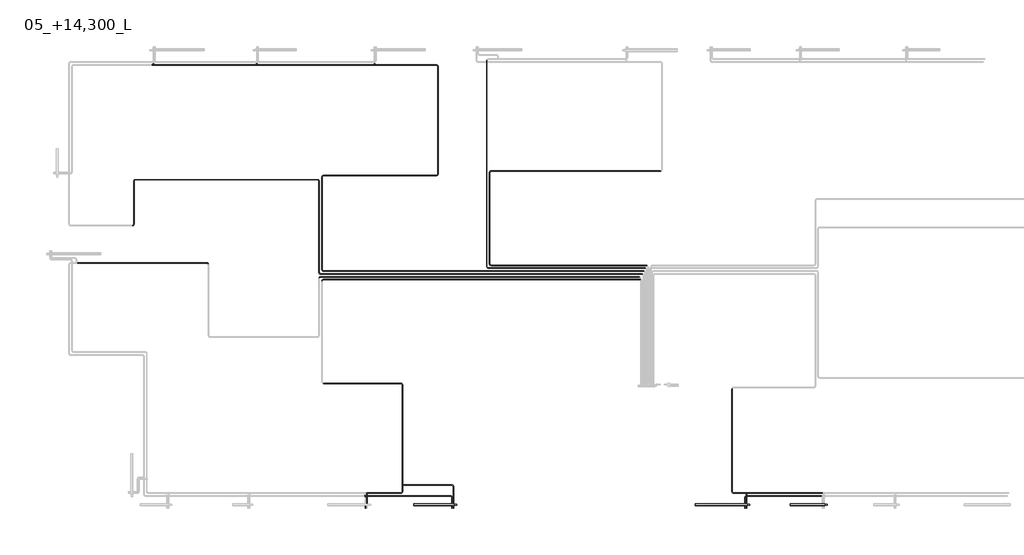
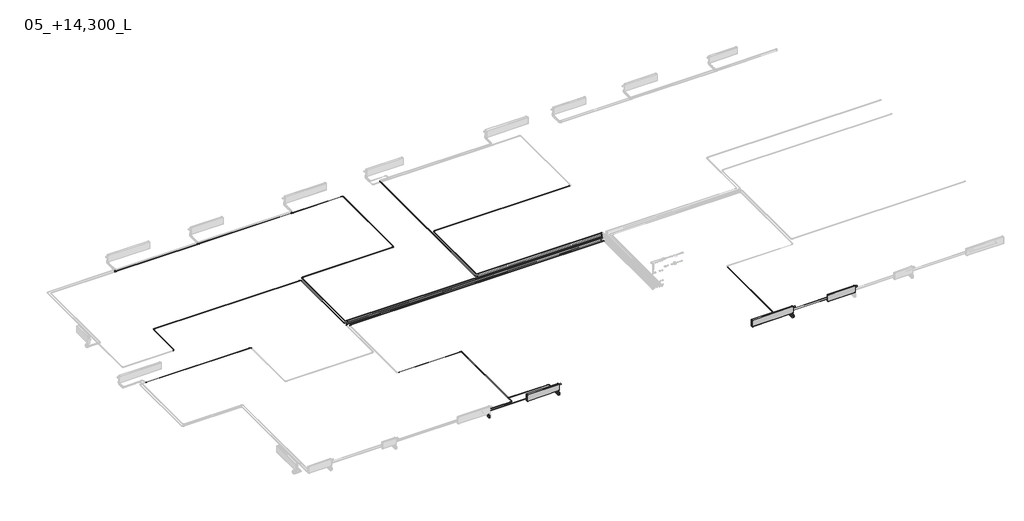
# One storey, part 3 of 15: 34 pipe segments, 32 pipe fittings, 3 proxies, 3 valves.
"""IFC4 building model written with IfcOpenShell, lengths in millimetres."""

from ifc_helpers import new_model, si_unit, point, frame, frame_2d, origin, place, context, project, spatial, circle_curve, trimmed, segment, composite_curve, outline, extrude, transform, mapped, element, save
from components import mechanical_equipment_c68842d5, mechanical_equipment_da64a6a1, mechanical_equipment_6df30eec, pipe_fitting_44bd76dc, pipe_fitting_8f811e63, pipe_fitting_d927fdfb, valve_f5090433, valve_5b696a81, valve_d3faaedd

model = new_model("IFC4")

# Units and contexts
model_context = context("Model", 3, world=origin())
ifc_project = project(units=[si_unit("LENGTHUNIT", "METRE", prefix="MILLI")], contexts=[model_context])

# Site, building, storey
site = spatial("IfcSite", under=ifc_project)
building = spatial("IfcBuilding", under=site)
storey = spatial("IfcBuildingStorey", under=building, Name="05_+14,300_L", Elevation=14300.0)

# Proxies
placement = place(None, origin())
mechanical_equipment_shape = mechanical_equipment_c68842d5(model_context)
element("IfcBuildingElementProxy", 1, Name="EVRA CV Д : 21-300-1400", ObjectType="EVRA CV Д : 21-300-1400", at=placement, inside=storey, context=model_context, shape_type="MappedRepresentation", body=[
    mapped(mechanical_equipment_shape, transform((10800.0, 112561.4631102, 14300.0), x_axis=(-1.0, 0.0, 0.0), y_axis=(0.0, -1.0, 0.0), z_axis=(0.0, 0.0, 1.0))),
])
mechanical_equipment_2_shape = mechanical_equipment_da64a6a1(model_context)
element("IfcBuildingElementProxy", 2, Name="EVRA CV Д : 21-300-1200", ObjectType="EVRA CV Д : 21-300-1200", at=placement, inside=storey, context=model_context, shape_type="MappedRepresentation", body=[
    mapped(mechanical_equipment_2_shape, transform((23800.0, 112561.4631102, 14300.0), x_axis=(-1.0, 0.0, 0.0), y_axis=(0.0, -1.0, 0.0), z_axis=(0.0, 0.0, 1.0))),
])
mechanical_equipment_3_shape = mechanical_equipment_6df30eec(model_context)
element("IfcBuildingElementProxy", 3, Name="EVRA CV Д : 21-300-1800", ObjectType="EVRA CV Д : 21-300-1800", at=placement, inside=storey, context=model_context, shape_type="MappedRepresentation", body=[
    mapped(mechanical_equipment_3_shape, transform((20800.0, 112561.4631102, 14300.0), x_axis=(-1.0, 0.0, 0.0), y_axis=(0.0, -1.0, 0.0), z_axis=(0.0, 0.0, 1.0))),
])

# Pipe fittings
pipe_fitting_shape = pipe_fitting_44bd76dc(model_context)
element("IfcPipeFitting", 4, ObjectType="ADSK_Пресс-фитинг ПЭ_Тройник : Пластик черный", at=placement, inside=storey, context=model_context, shape_type="MappedRepresentation", body=[
    mapped(pipe_fitting_shape, transform((9500.0, 113273.0, 14250.0), x_axis=(0.0, 1.0, 0.0), y_axis=(-1.0, 0.0, 0.0), z_axis=(0.0, 0.0, 1.0))),
])
element("IfcPipeFitting", 5, ObjectType="ADSK_Пресс-фитинг ПЭ_Тройник : Пластик черный", at=placement, inside=storey, context=model_context, shape_type="MappedRepresentation", body=[
    mapped(pipe_fitting_shape, transform((8270.0, 113000.0, 14250.0), x_axis=(1.0, 0.0, 0.0), y_axis=(0.0, 1.0, 0.0), z_axis=(0.0, 0.0, 1.0))),
])
element("IfcPipeFitting", 6, ObjectType="ADSK_Пресс-фитинг ПЭ_Тройник : Пластик черный", at=placement, inside=storey, context=model_context, shape_type="MappedRepresentation", body=[
    mapped(pipe_fitting_shape, transform((8530.0, 127900.0, 14250.0), x_axis=(1.0, 0.0, 0.0), y_axis=(0.0, -1.0, 0.0), z_axis=(0.0, 0.0, -1.0))),
])
element("IfcPipeFitting", 7, ObjectType="ADSK_Пресс-фитинг ПЭ_Тройник : Пластик черный", at=placement, inside=storey, context=model_context, shape_type="MappedRepresentation", body=[
    mapped(pipe_fitting_shape, transform((21470.0, 113000.0, 14250.0), x_axis=(1.0, 0.0, 0.0), y_axis=(0.0, 1.0, 0.0), z_axis=(0.0, 0.0, 1.0))),
])
element("IfcPipeFitting", 8, ObjectType="ADSK_Пресс-фитинг ПЭ_Тройник : Пластик черный", at=placement, inside=storey, context=model_context, shape_type="MappedRepresentation", body=[
    mapped(pipe_fitting_shape, transform((830.0, 127900.0, 14250.0), x_axis=(1.0, 0.0, 0.0), y_axis=(0.0, -1.0, 0.0), z_axis=(0.0, 0.0, -1.0))),
])
element("IfcPipeFitting", 9, ObjectType="ADSK_Пресс-фитинг ПЭ_Тройник : Пластик черный", at=placement, inside=storey, context=model_context, shape_type="MappedRepresentation", body=[
    mapped(pipe_fitting_shape, transform((4430.0, 127900.0, 14250.0), x_axis=(1.0, 0.0, 0.0), y_axis=(0.0, -1.0, 0.0), z_axis=(0.0, 0.0, -1.0))),
])
element("IfcPipeFitting", 10, ObjectType="ADSK_Пресс-фитинг ПЭ_Тройник : Пластик черный", at=placement, inside=storey, context=model_context, shape_type="MappedRepresentation", body=[
    mapped(pipe_fitting_shape, transform((8220.0, 112900.0, 14250.0), x_axis=(1.0, 0.0, 0.0), y_axis=(0.0, 1.0, 0.0), z_axis=(0.0, 0.0, 1.0))),
])
pipe_fitting_2_shape = pipe_fitting_8f811e63(model_context)
element("IfcPipeFitting", 11, ObjectType="ADSK_Пресс-фитинг ПЭ_Поворот с фиксатором : Поворот трубы", at=placement, inside=storey, context=model_context, shape_type="MappedRepresentation", body=[
    mapped(pipe_fitting_2_shape, transform((9500.0, 116805.0000002, 14250.0), x_axis=(0.0, 1.0, 0.0), y_axis=(-1.0, 0.0, 0.0), z_axis=(0.0, 0.0, 1.0))),
])
element("IfcPipeFitting", 12, ObjectType="ADSK_Пресс-фитинг ПЭ_Поворот с фиксатором : Поворот трубы", at=placement, inside=storey, context=model_context, shape_type="MappedRepresentation", body=[
    mapped(pipe_fitting_2_shape, transform((9500.0, 113000.0, 14250.0), x_axis=(1.0, 0.0, 0.0), y_axis=(0.0, 1.0, 0.0), z_axis=(0.0, 0.0, 1.0))),
])
element("IfcPipeFitting", 13, ObjectType="ADSK_Пресс-фитинг ПЭ_Поворот с фиксатором : Поворот трубы", at=placement, inside=storey, context=model_context, shape_type="MappedRepresentation", body=[
    mapped(pipe_fitting_2_shape, transform((10730.0, 127900.0, 14250.0), x_axis=(0.0, 1.0, 0.0), y_axis=(-1.0, 0.0, 0.0), z_axis=(0.0, 0.0, 1.0))),
])
element("IfcPipeFitting", 14, ObjectType="ADSK_Пресс-фитинг ПЭ_Поворот с фиксатором : Поворот трубы", at=placement, inside=storey, context=model_context, shape_type="MappedRepresentation", body=[
    mapped(pipe_fitting_2_shape, transform((20970.0, 113000.0, 14250.0), x_axis=(0.0, -1.0, 0.0), y_axis=(1.0, 0.0, 0.0), z_axis=(0.0, 0.0, 1.0))),
])
element("IfcPipeFitting", 15, ObjectType="ADSK_Пресс-фитинг ПЭ_Поворот с фиксатором : Поворот трубы", at=placement, inside=storey, context=model_context, shape_type="MappedRepresentation", body=[
    mapped(pipe_fitting_2_shape, transform((6600.0, 123900.0, 14250.0), x_axis=(0.0, 1.0, 0.0), y_axis=(-1.0, 0.0, 0.0), z_axis=(0.0, 0.0, 1.0))),
])
element("IfcPipeFitting", 16, ObjectType="ADSK_Пресс-фитинг ПЭ_Поворот с фиксатором : Поворот трубы", at=placement, inside=storey, context=model_context, shape_type="MappedRepresentation", body=[
    mapped(pipe_fitting_2_shape, transform((12535.0, 124200.0, 14250.0), x_axis=(-1.0, 0.0, 0.0), y_axis=(0.0, -1.0, 0.0), z_axis=(0.0, 0.0, 1.0))),
])
element("IfcPipeFitting", 17, ObjectType="ADSK_Пресс-фитинг ПЭ_Поворот с фиксатором : Поворот трубы", at=placement, inside=storey, context=model_context, shape_type="MappedRepresentation", body=[
    mapped(pipe_fitting_2_shape, transform((6700.0, 120421.8369308, 14250.0), x_axis=(-1.0, 0.0, 0.0), y_axis=(0.0, -1.0, 0.0), z_axis=(0.0, 0.0, 1.0))),
])
element("IfcPipeFitting", 18, ObjectType="ADSK_Пресс-фитинг ПЭ_Поворот с фиксатором : Поворот трубы", at=placement, inside=storey, context=model_context, shape_type="MappedRepresentation", body=[
    mapped(pipe_fitting_2_shape, transform((6600.0, 120521.8369308, 14250.0), x_axis=(-1.0, 0.0, 0.0), y_axis=(0.0, -1.0, 0.0), z_axis=(0.0, 0.0, 1.0))),
])
element("IfcPipeFitting", 19, ObjectType="ADSK_Пресс-фитинг ПЭ_Поворот с фиксатором : Поворот трубы", at=placement, inside=storey, context=model_context, shape_type="MappedRepresentation", body=[
    mapped(pipe_fitting_2_shape, transform((6600.0, 120621.8369308, 14250.0), x_axis=(0.0, -1.0, 0.0), y_axis=(1.0, 0.0, 0.0), z_axis=(0.0, 0.0, 1.0))),
])
element("IfcPipeFitting", 20, ObjectType="ADSK_Пресс-фитинг ПЭ_Поворот с фиксатором : Поворот трубы", at=placement, inside=storey, context=model_context, shape_type="MappedRepresentation", body=[
    mapped(pipe_fitting_2_shape, transform((6700.0, 120721.8369308, 14250.0), x_axis=(0.0, -1.0, 0.0), y_axis=(1.0, 0.0, 0.0), z_axis=(0.0, 0.0, 1.0))),
])
element("IfcPipeFitting", 21, ObjectType="ADSK_Пресс-фитинг ПЭ_Поворот с фиксатором : Поворот трубы", at=placement, inside=storey, context=model_context, shape_type="MappedRepresentation", body=[
    mapped(pipe_fitting_2_shape, transform((12435.0, 120821.8369308, 14250.0), x_axis=(0.0, -1.0, 0.0), y_axis=(1.0, 0.0, 0.0), z_axis=(0.0, 0.0, 1.0))),
])
element("IfcPipeFitting", 22, ObjectType="ADSK_Пресс-фитинг ПЭ_Поворот с фиксатором : Поворот трубы", at=placement, inside=storey, context=model_context, shape_type="MappedRepresentation", body=[
    mapped(pipe_fitting_2_shape, transform((12535.0, 120921.8369308, 14250.0), x_axis=(0.0, -1.0, 0.0), y_axis=(1.0, 0.0, 0.0), z_axis=(0.0, 0.0, 1.0))),
])
element("IfcPipeFitting", 23, ObjectType="ADSK_Пресс-фитинг ПЭ_Поворот с фиксатором : Поворот трубы", at=placement, inside=storey, context=model_context, shape_type="MappedRepresentation", body=[
    mapped(pipe_fitting_2_shape, transform((10730.0, 124040.0, 14250.0), x_axis=(1.0, 0.0, 0.0), y_axis=(0.0, 1.0, 0.0), z_axis=(0.0, 0.0, 1.0))),
])
element("IfcPipeFitting", 24, ObjectType="ADSK_Пресс-фитинг ПЭ_Поворот с фиксатором : Поворот трубы", at=placement, inside=storey, context=model_context, shape_type="MappedRepresentation", body=[
    mapped(pipe_fitting_2_shape, transform((6700.0, 124040.0, 14250.0), x_axis=(-1.0, 0.0, 0.0), y_axis=(0.0, -1.0, 0.0), z_axis=(0.0, 0.0, 1.0))),
])
element("IfcPipeFitting", 25, ObjectType="ADSK_Пресс-фитинг ПЭ_Поворот с фиксатором : Поворот трубы", at=placement, inside=storey, context=model_context, shape_type="MappedRepresentation", body=[
    mapped(pipe_fitting_2_shape, transform((159.9999998, 123900.0, 14250.0), x_axis=(-1.0, 0.0, 0.0), y_axis=(0.0, -1.0, 0.0), z_axis=(0.0, 0.0, 1.0))),
])
element("IfcPipeFitting", 26, ObjectType="ADSK_Пресс-фитинг ПЭ_Поворот с фиксатором : Поворот трубы", at=placement, inside=storey, context=model_context, shape_type="MappedRepresentation", body=[
    mapped(pipe_fitting_2_shape, transform((159.9999998, 122300.0, 14250.0), x_axis=(1.0, 0.0, 0.0), y_axis=(0.0, 1.0, 0.0), z_axis=(0.0, 0.0, 1.0))),
])
element("IfcPipeFitting", 27, ObjectType="ADSK_Пресс-фитинг ПЭ_Поворот с фиксатором : Поворот трубы", at=placement, inside=storey, context=model_context, shape_type="MappedRepresentation", body=[
    mapped(pipe_fitting_2_shape, transform((2749.0000003, 121000.0000002, 14250.0), x_axis=(0.0, 1.0, 0.0), y_axis=(-1.0, 0.0, 0.0), z_axis=(0.0, 0.0, 1.0))),
])
element("IfcPipeFitting", 28, ObjectType="ADSK_Пресс-фитинг ПЭ_Поворот с фиксатором : Поворот трубы", at=placement, inside=storey, context=model_context, shape_type="MappedRepresentation", body=[
    mapped(pipe_fitting_2_shape, transform((21420.0, 112900.0, 14250.0), x_axis=(-1.0, 0.0, 0.0), y_axis=(0.0, -1.0, 0.0), z_axis=(0.0, 0.0, 1.0))),
])
element("IfcPipeFitting", 29, ObjectType="ADSK_Пресс-фитинг ПЭ_Поворот с фиксатором : Поворот трубы", at=placement, inside=storey, context=model_context, shape_type="MappedRepresentation", body=[
    mapped(pipe_fitting_2_shape, transform((11270.0, 113273.0, 14250.0), x_axis=(0.0, 1.0, 0.0), y_axis=(-1.0, 0.0, 0.0), z_axis=(0.0, 0.0, 1.0))),
])
element("IfcPipeFitting", 30, ObjectType="ADSK_Пресс-фитинг ПЭ_Поворот с фиксатором : Поворот трубы", at=placement, inside=storey, context=model_context, shape_type="MappedRepresentation", body=[
    mapped(pipe_fitting_2_shape, transform((11220.0, 112900.0, 14250.0), x_axis=(0.0, 1.0, 0.0), y_axis=(-1.0, 0.0, 0.0), z_axis=(0.0, 0.0, 1.0))),
])
pipe_fitting_3_shape = pipe_fitting_d927fdfb(model_context)
element("IfcPipeFitting", 31, ObjectType="Трубка Г-образная VTm.481.PC из стены : VTm.481.PC", at=placement, inside=storey, context=model_context, shape_type="MappedRepresentation", body=[
    mapped(pipe_fitting_3_shape, transform((21470.0, 112512.0, 14250.0), x_axis=(-1.0, 0.0, 0.0), y_axis=(0.0, -1.0, 0.0), z_axis=(0.0, 0.0, 1.0))),
])
element("IfcPipeFitting", 32, ObjectType="Трубка Г-образная VTm.481.PC из стены : VTm.481.PC", at=placement, inside=storey, context=model_context, shape_type="MappedRepresentation", body=[
    mapped(pipe_fitting_3_shape, transform((11270.0, 112512.0, 14250.0), x_axis=(-1.0, 0.0, 0.0), y_axis=(0.0, -1.0, 0.0), z_axis=(0.0, 0.0, 1.0))),
])
element("IfcPipeFitting", 33, ObjectType="Трубка Г-образная VTm.481.PC из стены : VTm.481.PC", at=placement, inside=storey, context=model_context, shape_type="MappedRepresentation", body=[
    mapped(pipe_fitting_3_shape, transform((21420.0, 112512.0, 14250.0), x_axis=(-1.0, 0.0, 0.0), y_axis=(0.0, -1.0, 0.0), z_axis=(0.0, 0.0, 1.0))),
])
element("IfcPipeFitting", 34, ObjectType="Трубка Г-образная VTm.481.PC из стены : VTm.481.PC", at=placement, inside=storey, context=model_context, shape_type="MappedRepresentation", body=[
    mapped(pipe_fitting_3_shape, transform((11220.0, 112512.0, 14250.0), x_axis=(-1.0, 0.0, 0.0), y_axis=(0.0, -1.0, 0.0), z_axis=(0.0, 0.0, 1.0))),
])
element("IfcPipeFitting", 35, ObjectType="Трубка Г-образная VTm.481.PC из стены : VTm.481.PC", at=placement, inside=storey, context=model_context, shape_type="MappedRepresentation", body=[
    mapped(pipe_fitting_3_shape, transform((8220.0, 112512.0, 14250.0), x_axis=(-1.0, 0.0, 0.0), y_axis=(0.0, -1.0, 0.0), z_axis=(0.0, 0.0, 1.0))),
])

# Pipe segments
element("IfcPipeSegment", 36, ObjectType="ADSK_Полиэтилен сшитый", at=placement, inside=storey, context=model_context, shape_type="SweptSolid", body=[
    extrude(outline(composite_curve([segment(trimmed(circle_curve(frame_2d((113000.0, 14250.0)), 8.0), [point((113008.0, 14250.0))], [point((113000.0, 14242.0))], False, "CARTESIAN"), True, "CONTINUOUS"), segment(trimmed(circle_curve(frame_2d((113000.0, 14250.0)), 8.0), [point((113000.0, 14242.0))], [point((112992.0, 14250.0))], False, "CARTESIAN"), True, "CONTINUOUS"), segment(trimmed(circle_curve(frame_2d((113000.0, 14250.0)), 8.0), [point((112992.0, 14250.0))], [point((113000.0, 14258.0))], False, "CARTESIAN"), True, "CONTINUOUS"), segment(trimmed(circle_curve(frame_2d((113000.0, 14250.0)), 8.0), [point((113000.0, 14258.0))], [point((113008.0, 14250.0))], False, "CARTESIAN"), True, "CONTINUOUS")], self_intersect=False)), frame((21018.0, 0.0, 0.0), z_axis=(1.0, 0.0, 0.0), x_axis=(0.0, 1.0, 0.0)), (0.0, 0.0, 1.0), 432.0),
])
element("IfcPipeSegment", 37, ObjectType="ADSK_Полиэтилен сшитый", at=placement, inside=storey, context=model_context, shape_type="SweptSolid", body=[
    extrude(outline(composite_curve([segment(trimmed(circle_curve(frame_2d((116805.0000002, 14250.0)), 8.0), [point((116797.0000002, 14250.0))], [point((116805.0000002, 14258.0))], False, "CARTESIAN"), True, "CONTINUOUS"), segment(trimmed(circle_curve(frame_2d((116805.0000002, 14250.0)), 8.0), [point((116805.0000002, 14258.0))], [point((116813.0000002, 14250.0))], False, "CARTESIAN"), True, "CONTINUOUS"), segment(trimmed(circle_curve(frame_2d((116805.0000002, 14250.0)), 8.0), [point((116813.0000002, 14250.0))], [point((116805.0000002, 14242.0))], False, "CARTESIAN"), True, "CONTINUOUS"), segment(trimmed(circle_curve(frame_2d((116805.0000002, 14250.0)), 8.0), [point((116805.0000002, 14242.0))], [point((116797.0000002, 14250.0))], False, "CARTESIAN"), True, "CONTINUOUS")], self_intersect=False)), frame((6748.0, 0.0, 0.0), z_axis=(1.0, 0.0, 0.0), x_axis=(0.0, 1.0, 0.0)), (0.0, 0.0, 1.0), 2704.0),
])
element("IfcPipeSegment", 38, ObjectType="ADSK_Полиэтилен сшитый", at=placement, inside=storey, context=model_context, shape_type="SweptSolid", body=[
    extrude(outline(composite_curve([segment(trimmed(circle_curve(frame_2d((14250.0, 9500.0)), 8.0), [point((14250.0, 9492.0))], [point((14242.0, 9500.0))], False, "CARTESIAN"), True, "CONTINUOUS"), segment(trimmed(circle_curve(frame_2d((14250.0, 9500.0)), 8.0), [point((14242.0, 9500.0))], [point((14250.0, 9508.0))], False, "CARTESIAN"), True, "CONTINUOUS"), segment(trimmed(circle_curve(frame_2d((14250.0, 9500.0)), 8.0), [point((14250.0, 9508.0))], [point((14258.0, 9500.0))], False, "CARTESIAN"), True, "CONTINUOUS"), segment(trimmed(circle_curve(frame_2d((14250.0, 9500.0)), 8.0), [point((14258.0, 9500.0))], [point((14250.0, 9492.0))], False, "CARTESIAN"), True, "CONTINUOUS")], self_intersect=False)), frame((0.0, 113048.0, 0.0), z_axis=(0.0, 1.0, 0.0), x_axis=(0.0, 0.0, 1.0)), (0.0, 0.0, 1.0), 205.0),
])
element("IfcPipeSegment", 39, ObjectType="ADSK_Полиэтилен сшитый", at=placement, inside=storey, context=model_context, shape_type="SweptSolid", body=[
    extrude(outline(composite_curve([segment(trimmed(circle_curve(frame_2d((14250.0, 11220.0)), 8.0), [point((14250.0, 11212.0))], [point((14242.0, 11220.0))], False, "CARTESIAN"), True, "CONTINUOUS"), segment(trimmed(circle_curve(frame_2d((14250.0, 11220.0)), 8.0), [point((14242.0, 11220.0))], [point((14250.0, 11228.0))], False, "CARTESIAN"), True, "CONTINUOUS"), segment(trimmed(circle_curve(frame_2d((14250.0, 11220.0)), 8.0), [point((14250.0, 11228.0))], [point((14258.0, 11220.0))], False, "CARTESIAN"), True, "CONTINUOUS"), segment(trimmed(circle_curve(frame_2d((14250.0, 11220.0)), 8.0), [point((14258.0, 11220.0))], [point((14250.0, 11212.0))], False, "CARTESIAN"), True, "CONTINUOUS")], self_intersect=False)), frame((0.0, 112627.0, 0.0), z_axis=(0.0, 1.0, 0.0), x_axis=(0.0, 0.0, 1.0)), (0.0, 0.0, 1.0), 225.0),
])
element("IfcPipeSegment", 40, ObjectType="ADSK_Полиэтилен сшитый", at=placement, inside=storey, context=model_context, shape_type="SweptSolid", body=[
    extrude(outline(composite_curve([segment(trimmed(circle_curve(frame_2d((112900.0, 14250.0)), 8.0), [point((112892.0, 14250.0))], [point((112900.0, 14258.0))], False, "CARTESIAN"), True, "CONTINUOUS"), segment(trimmed(circle_curve(frame_2d((112900.0, 14250.0)), 8.0), [point((112900.0, 14258.0))], [point((112908.0, 14250.0))], False, "CARTESIAN"), True, "CONTINUOUS"), segment(trimmed(circle_curve(frame_2d((112900.0, 14250.0)), 8.0), [point((112908.0, 14250.0))], [point((112900.0, 14242.0))], False, "CARTESIAN"), True, "CONTINUOUS"), segment(trimmed(circle_curve(frame_2d((112900.0, 14250.0)), 8.0), [point((112900.0, 14242.0))], [point((112892.0, 14250.0))], False, "CARTESIAN"), True, "CONTINUOUS")], self_intersect=False)), frame((8240.0, 0.0, 0.0), z_axis=(1.0, 0.0, 0.0), x_axis=(0.0, 1.0, 0.0)), (0.0, 0.0, 1.0), 2932.0),
])
element("IfcPipeSegment", 41, ObjectType="ADSK_Полиэтилен сшитый", at=placement, inside=storey, context=model_context, shape_type="SweptSolid", body=[
    extrude(outline(composite_curve([segment(trimmed(circle_curve(frame_2d((14250.0, 11270.0)), 8.0), [point((14250.0, 11262.0))], [point((14242.0, 11270.0))], False, "CARTESIAN"), True, "CONTINUOUS"), segment(trimmed(circle_curve(frame_2d((14250.0, 11270.0)), 8.0), [point((14242.0, 11270.0))], [point((14250.0, 11278.0))], False, "CARTESIAN"), True, "CONTINUOUS"), segment(trimmed(circle_curve(frame_2d((14250.0, 11270.0)), 8.0), [point((14250.0, 11278.0))], [point((14258.0, 11270.0))], False, "CARTESIAN"), True, "CONTINUOUS"), segment(trimmed(circle_curve(frame_2d((14250.0, 11270.0)), 8.0), [point((14258.0, 11270.0))], [point((14250.0, 11262.0))], False, "CARTESIAN"), True, "CONTINUOUS")], self_intersect=False)), frame((0.0, 112627.0, 0.0), z_axis=(0.0, 1.0, 0.0), x_axis=(0.0, 0.0, 1.0)), (0.0, 0.0, 1.0), 598.0),
])
element("IfcPipeSegment", 42, ObjectType="ADSK_Полиэтилен сшитый", at=placement, inside=storey, context=model_context, shape_type="SweptSolid", body=[
    extrude(outline(composite_curve([segment(trimmed(circle_curve(frame_2d((113273.0, 14250.0)), 8.0), [point((113265.0, 14250.0))], [point((113273.0, 14258.0))], False, "CARTESIAN"), True, "CONTINUOUS"), segment(trimmed(circle_curve(frame_2d((113273.0, 14250.0)), 8.0), [point((113273.0, 14258.0))], [point((113281.0, 14250.0))], False, "CARTESIAN"), True, "CONTINUOUS"), segment(trimmed(circle_curve(frame_2d((113273.0, 14250.0)), 8.0), [point((113281.0, 14250.0))], [point((113273.0, 14242.0))], False, "CARTESIAN"), True, "CONTINUOUS"), segment(trimmed(circle_curve(frame_2d((113273.0, 14250.0)), 8.0), [point((113273.0, 14242.0))], [point((113265.0, 14250.0))], False, "CARTESIAN"), True, "CONTINUOUS")], self_intersect=False)), frame((9524.0, 0.0, 0.0), z_axis=(1.0, 0.0, 0.0), x_axis=(0.0, 1.0, 0.0)), (0.0, 0.0, 1.0), 1698.0),
])
element("IfcPipeSegment", 43, ObjectType="ADSK_Полиэтилен сшитый", at=placement, inside=storey, context=model_context, shape_type="SweptSolid", body=[
    extrude(outline(composite_curve([segment(trimmed(circle_curve(frame_2d((14250.0, 9500.0)), 8.0), [point((14250.0, 9492.0))], [point((14242.0, 9500.0))], False, "CARTESIAN"), True, "CONTINUOUS"), segment(trimmed(circle_curve(frame_2d((14250.0, 9500.0)), 8.0), [point((14242.0, 9500.0))], [point((14250.0, 9508.0))], False, "CARTESIAN"), True, "CONTINUOUS"), segment(trimmed(circle_curve(frame_2d((14250.0, 9500.0)), 8.0), [point((14250.0, 9508.0))], [point((14258.0, 9500.0))], False, "CARTESIAN"), True, "CONTINUOUS"), segment(trimmed(circle_curve(frame_2d((14250.0, 9500.0)), 8.0), [point((14258.0, 9500.0))], [point((14250.0, 9492.0))], False, "CARTESIAN"), True, "CONTINUOUS")], self_intersect=False)), frame((0.0, 113293.0, 0.0), z_axis=(0.0, 1.0, 0.0), x_axis=(0.0, 0.0, 1.0)), (0.0, 0.0, 1.0), 3464.0000002),
])
element("IfcPipeSegment", 44, ObjectType="ADSK_Полиэтилен сшитый", at=placement, inside=storey, context=model_context, shape_type="SweptSolid", body=[
    extrude(outline(composite_curve([segment(trimmed(circle_curve(frame_2d((14250.0, 8270.0)), 8.0), [point((14250.0, 8262.0))], [point((14242.0, 8270.0))], False, "CARTESIAN"), True, "CONTINUOUS"), segment(trimmed(circle_curve(frame_2d((14250.0, 8270.0)), 8.0), [point((14242.0, 8270.0))], [point((14250.0, 8278.0))], False, "CARTESIAN"), True, "CONTINUOUS"), segment(trimmed(circle_curve(frame_2d((14250.0, 8270.0)), 8.0), [point((14250.0, 8278.0))], [point((14258.0, 8270.0))], False, "CARTESIAN"), True, "CONTINUOUS"), segment(trimmed(circle_curve(frame_2d((14250.0, 8270.0)), 8.0), [point((14258.0, 8270.0))], [point((14250.0, 8262.0))], False, "CARTESIAN"), True, "CONTINUOUS")], self_intersect=False)), frame((0.0, 112627.0, 0.0), z_axis=(0.0, 1.0, 0.0), x_axis=(0.0, 0.0, 1.0)), (0.0, 0.0, 1.0), 349.0),
])
element("IfcPipeSegment", 45, ObjectType="ADSK_Полиэтилен сшитый", at=placement, inside=storey, context=model_context, shape_type="SweptSolid", body=[
    extrude(outline(composite_curve([segment(trimmed(circle_curve(frame_2d((113000.0, 14250.0)), 8.0), [point((113008.0, 14250.0))], [point((113000.0, 14242.0))], False, "CARTESIAN"), True, "CONTINUOUS"), segment(trimmed(circle_curve(frame_2d((113000.0, 14250.0)), 8.0), [point((113000.0, 14242.0))], [point((112992.0, 14250.0))], False, "CARTESIAN"), True, "CONTINUOUS"), segment(trimmed(circle_curve(frame_2d((113000.0, 14250.0)), 8.0), [point((112992.0, 14250.0))], [point((113000.0, 14258.0))], False, "CARTESIAN"), True, "CONTINUOUS"), segment(trimmed(circle_curve(frame_2d((113000.0, 14250.0)), 8.0), [point((113000.0, 14258.0))], [point((113008.0, 14250.0))], False, "CARTESIAN"), True, "CONTINUOUS")], self_intersect=False)), frame((8290.0, 0.0, 0.0), z_axis=(1.0, 0.0, 0.0), x_axis=(0.0, 1.0, 0.0)), (0.0, 0.0, 1.0), 1162.0),
])
element("IfcPipeSegment", 46, ObjectType="ADSK_Полиэтилен сшитый", at=placement, inside=storey, context=model_context, shape_type="SweptSolid", body=[
    extrude(outline(composite_curve([segment(trimmed(circle_curve(frame_2d((14250.0, 6600.0)), 8.0), [point((14250.0, 6608.0))], [point((14258.0, 6600.0))], False, "CARTESIAN"), True, "CONTINUOUS"), segment(trimmed(circle_curve(frame_2d((14250.0, 6600.0)), 8.0), [point((14258.0, 6600.0))], [point((14250.0, 6592.0))], False, "CARTESIAN"), True, "CONTINUOUS"), segment(trimmed(circle_curve(frame_2d((14250.0, 6600.0)), 8.0), [point((14250.0, 6592.0))], [point((14242.0, 6600.0))], False, "CARTESIAN"), True, "CONTINUOUS"), segment(trimmed(circle_curve(frame_2d((14250.0, 6600.0)), 8.0), [point((14242.0, 6600.0))], [point((14250.0, 6608.0))], False, "CARTESIAN"), True, "CONTINUOUS")], self_intersect=False)), frame((0.0, 120669.8369308, 0.0), z_axis=(0.0, 1.0, 0.0), x_axis=(0.0, 0.0, 1.0)), (0.0, 0.0, 1.0), 3182.1630692),
])
element("IfcPipeSegment", 47, ObjectType="ADSK_Полиэтилен сшитый", at=placement, inside=storey, context=model_context, shape_type="SweptSolid", body=[
    extrude(outline(composite_curve([segment(trimmed(circle_curve(frame_2d((14250.0, 6700.0)), 8.0), [point((14250.0, 6708.0))], [point((14258.0, 6700.0))], False, "CARTESIAN"), True, "CONTINUOUS"), segment(trimmed(circle_curve(frame_2d((14250.0, 6700.0)), 8.0), [point((14258.0, 6700.0))], [point((14250.0, 6692.0))], False, "CARTESIAN"), True, "CONTINUOUS"), segment(trimmed(circle_curve(frame_2d((14250.0, 6700.0)), 8.0), [point((14250.0, 6692.0))], [point((14242.0, 6700.0))], False, "CARTESIAN"), True, "CONTINUOUS"), segment(trimmed(circle_curve(frame_2d((14250.0, 6700.0)), 8.0), [point((14242.0, 6700.0))], [point((14250.0, 6708.0))], False, "CARTESIAN"), True, "CONTINUOUS")], self_intersect=False)), frame((0.0, 120769.8369308, 0.0), z_axis=(0.0, 1.0, 0.0), x_axis=(0.0, 0.0, 1.0)), (0.0, 0.0, 1.0), 3222.1630692),
])
element("IfcPipeSegment", 48, ObjectType="ADSK_Полиэтилен сшитый", at=placement, inside=storey, context=model_context, shape_type="SweptSolid", body=[
    extrude(outline(composite_curve([segment(trimmed(circle_curve(frame_2d((124040.0, 14250.0)), 8.0), [point((124048.0, 14250.0))], [point((124040.0, 14242.0))], False, "CARTESIAN"), True, "CONTINUOUS"), segment(trimmed(circle_curve(frame_2d((124040.0, 14250.0)), 8.0), [point((124040.0, 14242.0))], [point((124032.0, 14250.0))], False, "CARTESIAN"), True, "CONTINUOUS"), segment(trimmed(circle_curve(frame_2d((124040.0, 14250.0)), 8.0), [point((124032.0, 14250.0))], [point((124040.0, 14258.0))], False, "CARTESIAN"), True, "CONTINUOUS"), segment(trimmed(circle_curve(frame_2d((124040.0, 14250.0)), 8.0), [point((124040.0, 14258.0))], [point((124048.0, 14250.0))], False, "CARTESIAN"), True, "CONTINUOUS")], self_intersect=False)), frame((6748.0, 0.0, 0.0), z_axis=(1.0, 0.0, 0.0), x_axis=(0.0, 1.0, 0.0)), (0.0, 0.0, 1.0), 3934.0),
])
element("IfcPipeSegment", 49, ObjectType="ADSK_Полиэтилен сшитый", at=placement, inside=storey, context=model_context, shape_type="SweptSolid", body=[
    extrude(outline(composite_curve([segment(trimmed(circle_curve(frame_2d((14250.0, 10730.0)), 8.0), [point((14250.0, 10738.0))], [point((14258.0, 10730.0))], False, "CARTESIAN"), True, "CONTINUOUS"), segment(trimmed(circle_curve(frame_2d((14250.0, 10730.0)), 8.0), [point((14258.0, 10730.0))], [point((14250.0, 10722.0))], False, "CARTESIAN"), True, "CONTINUOUS"), segment(trimmed(circle_curve(frame_2d((14250.0, 10730.0)), 8.0), [point((14250.0, 10722.0))], [point((14242.0, 10730.0))], False, "CARTESIAN"), True, "CONTINUOUS"), segment(trimmed(circle_curve(frame_2d((14250.0, 10730.0)), 8.0), [point((14242.0, 10730.0))], [point((14250.0, 10738.0))], False, "CARTESIAN"), True, "CONTINUOUS")], self_intersect=False)), frame((0.0, 124088.0, 0.0), z_axis=(0.0, 1.0, 0.0), x_axis=(0.0, 0.0, 1.0)), (0.0, 0.0, 1.0), 3764.0),
])
element("IfcPipeSegment", 50, ObjectType="ADSK_Полиэтилен сшитый", at=placement, inside=storey, context=model_context, shape_type="SweptSolid", body=[
    extrude(outline(composite_curve([segment(trimmed(circle_curve(frame_2d((127900.0, 14250.0)), 8.0), [point((127908.0, 14250.0))], [point((127900.0, 14242.0))], False, "CARTESIAN"), True, "CONTINUOUS"), segment(trimmed(circle_curve(frame_2d((127900.0, 14250.0)), 8.0), [point((127900.0, 14242.0))], [point((127892.0, 14250.0))], False, "CARTESIAN"), True, "CONTINUOUS"), segment(trimmed(circle_curve(frame_2d((127900.0, 14250.0)), 8.0), [point((127892.0, 14250.0))], [point((127900.0, 14258.0))], False, "CARTESIAN"), True, "CONTINUOUS"), segment(trimmed(circle_curve(frame_2d((127900.0, 14250.0)), 8.0), [point((127900.0, 14258.0))], [point((127908.0, 14250.0))], False, "CARTESIAN"), True, "CONTINUOUS")], self_intersect=False)), frame((8550.0, 0.0, 0.0), z_axis=(1.0, 0.0, 0.0), x_axis=(0.0, 1.0, 0.0)), (0.0, 0.0, 1.0), 2132.0),
])
element("IfcPipeSegment", 51, ObjectType="ADSK_Полиэтилен сшитый", at=placement, inside=storey, context=model_context, shape_type="SweptSolid", body=[
    extrude(outline(composite_curve([segment(trimmed(circle_curve(frame_2d((127900.0, 14250.0)), 8.0), [point((127908.0, 14250.0))], [point((127900.0, 14242.0))], False, "CARTESIAN"), True, "CONTINUOUS"), segment(trimmed(circle_curve(frame_2d((127900.0, 14250.0)), 8.0), [point((127900.0, 14242.0))], [point((127892.0, 14250.0))], False, "CARTESIAN"), True, "CONTINUOUS"), segment(trimmed(circle_curve(frame_2d((127900.0, 14250.0)), 8.0), [point((127892.0, 14250.0))], [point((127900.0, 14258.0))], False, "CARTESIAN"), True, "CONTINUOUS"), segment(trimmed(circle_curve(frame_2d((127900.0, 14250.0)), 8.0), [point((127900.0, 14258.0))], [point((127908.0, 14250.0))], False, "CARTESIAN"), True, "CONTINUOUS")], self_intersect=False)), frame((850.0, 0.0, 0.0), z_axis=(1.0, 0.0, 0.0), x_axis=(0.0, 1.0, 0.0)), (0.0, 0.0, 1.0), 3560.0),
])
element("IfcPipeSegment", 52, ObjectType="ADSK_Полиэтилен сшитый", at=placement, inside=storey, context=model_context, shape_type="SweptSolid", body=[
    extrude(outline(composite_curve([segment(trimmed(circle_curve(frame_2d((14250.0, 12435.0)), 8.0), [point((14250.0, 12443.0))], [point((14258.0, 12435.0))], False, "CARTESIAN"), True, "CONTINUOUS"), segment(trimmed(circle_curve(frame_2d((14250.0, 12435.0)), 8.0), [point((14258.0, 12435.0))], [point((14250.0, 12427.0))], False, "CARTESIAN"), True, "CONTINUOUS"), segment(trimmed(circle_curve(frame_2d((14250.0, 12435.0)), 8.0), [point((14250.0, 12427.0))], [point((14242.0, 12435.0))], False, "CARTESIAN"), True, "CONTINUOUS"), segment(trimmed(circle_curve(frame_2d((14250.0, 12435.0)), 8.0), [point((14242.0, 12435.0))], [point((14250.0, 12443.0))], False, "CARTESIAN"), True, "CONTINUOUS")], self_intersect=False)), frame((0.0, 120869.8369308, 0.0), z_axis=(0.0, 1.0, 0.0), x_axis=(0.0, 0.0, 1.0)), (0.0, 0.0, 1.0), 7182.1630692),
])
element("IfcPipeSegment", 53, ObjectType="ADSK_Полиэтилен сшитый", at=placement, inside=storey, context=model_context, shape_type="SweptSolid", body=[
    extrude(outline(composite_curve([segment(trimmed(circle_curve(frame_2d((14250.0, 12535.0)), 8.0), [point((14250.0, 12543.0))], [point((14258.0, 12535.0))], False, "CARTESIAN"), True, "CONTINUOUS"), segment(trimmed(circle_curve(frame_2d((14250.0, 12535.0)), 8.0), [point((14258.0, 12535.0))], [point((14250.0, 12527.0))], False, "CARTESIAN"), True, "CONTINUOUS"), segment(trimmed(circle_curve(frame_2d((14250.0, 12535.0)), 8.0), [point((14250.0, 12527.0))], [point((14242.0, 12535.0))], False, "CARTESIAN"), True, "CONTINUOUS"), segment(trimmed(circle_curve(frame_2d((14250.0, 12535.0)), 8.0), [point((14242.0, 12535.0))], [point((14250.0, 12543.0))], False, "CARTESIAN"), True, "CONTINUOUS")], self_intersect=False)), frame((0.0, 120969.8369308, 0.0), z_axis=(0.0, 1.0, 0.0), x_axis=(0.0, 0.0, 1.0)), (0.0, 0.0, 1.0), 3182.1630692),
])
element("IfcPipeSegment", 54, ObjectType="ADSK_Полиэтилен сшитый", at=placement, inside=storey, context=model_context, shape_type="SweptSolid", body=[
    extrude(outline(composite_curve([segment(trimmed(circle_curve(frame_2d((124200.0, 14250.0)), 8.0), [point((124192.0, 14250.0))], [point((124200.0, 14258.0))], False, "CARTESIAN"), True, "CONTINUOUS"), segment(trimmed(circle_curve(frame_2d((124200.0, 14250.0)), 8.0), [point((124200.0, 14258.0))], [point((124208.0, 14250.0))], False, "CARTESIAN"), True, "CONTINUOUS"), segment(trimmed(circle_curve(frame_2d((124200.0, 14250.0)), 8.0), [point((124208.0, 14250.0))], [point((124200.0, 14242.0))], False, "CARTESIAN"), True, "CONTINUOUS"), segment(trimmed(circle_curve(frame_2d((124200.0, 14250.0)), 8.0), [point((124200.0, 14242.0))], [point((124192.0, 14250.0))], False, "CARTESIAN"), True, "CONTINUOUS")], self_intersect=False)), frame((12583.0, 0.0, 0.0), z_axis=(1.0, 0.0, 0.0), x_axis=(0.0, 1.0, 0.0)), (0.0, 0.0, 1.0), 5904.0),
])
element("IfcPipeSegment", 55, ObjectType="ADSK_Полиэтилен сшитый", at=placement, inside=storey, context=model_context, shape_type="SweptSolid", body=[
    extrude(outline(composite_curve([segment(trimmed(circle_curve(frame_2d((113000.0, 14250.0)), 8.0), [point((113008.0, 14250.0))], [point((113000.0, 14242.0))], False, "CARTESIAN"), True, "CONTINUOUS"), segment(trimmed(circle_curve(frame_2d((113000.0, 14250.0)), 8.0), [point((113000.0, 14242.0))], [point((112992.0, 14250.0))], False, "CARTESIAN"), True, "CONTINUOUS"), segment(trimmed(circle_curve(frame_2d((113000.0, 14250.0)), 8.0), [point((112992.0, 14250.0))], [point((113000.0, 14258.0))], False, "CARTESIAN"), True, "CONTINUOUS"), segment(trimmed(circle_curve(frame_2d((113000.0, 14250.0)), 8.0), [point((113000.0, 14258.0))], [point((113008.0, 14250.0))], False, "CARTESIAN"), True, "CONTINUOUS")], self_intersect=False)), frame((21490.0, 0.0, 0.0), z_axis=(1.0, 0.0, 0.0), x_axis=(0.0, 1.0, 0.0)), (0.0, 0.0, 1.0), 2660.0),
])
element("IfcPipeSegment", 56, ObjectType="ADSK_Полиэтилен сшитый", at=placement, inside=storey, context=model_context, shape_type="SweptSolid", body=[
    extrude(outline(composite_curve([segment(trimmed(circle_curve(frame_2d((112900.0, 14250.0)), 8.0), [point((112908.0, 14250.0))], [point((112900.0, 14242.0))], False, "CARTESIAN"), True, "CONTINUOUS"), segment(trimmed(circle_curve(frame_2d((112900.0, 14250.0)), 8.0), [point((112900.0, 14242.0))], [point((112892.0, 14250.0))], False, "CARTESIAN"), True, "CONTINUOUS"), segment(trimmed(circle_curve(frame_2d((112900.0, 14250.0)), 8.0), [point((112892.0, 14250.0))], [point((112900.0, 14258.0))], False, "CARTESIAN"), True, "CONTINUOUS"), segment(trimmed(circle_curve(frame_2d((112900.0, 14250.0)), 8.0), [point((112900.0, 14258.0))], [point((112908.0, 14250.0))], False, "CARTESIAN"), True, "CONTINUOUS")], self_intersect=False)), frame((21468.0, 0.0, 0.0), z_axis=(1.0, 0.0, 0.0), x_axis=(0.0, 1.0, 0.0)), (0.0, 0.0, 1.0), 2632.0),
])
element("IfcPipeSegment", 57, ObjectType="ADSK_Полиэтилен сшитый", at=placement, inside=storey, context=model_context, shape_type="SweptSolid", body=[
    extrude(outline(composite_curve([segment(trimmed(circle_curve(frame_2d((14250.0, 20970.0)), 8.0), [point((14250.0, 20978.0))], [point((14258.0, 20970.0))], False, "CARTESIAN"), True, "CONTINUOUS"), segment(trimmed(circle_curve(frame_2d((14250.0, 20970.0)), 8.0), [point((14258.0, 20970.0))], [point((14250.0, 20962.0))], False, "CARTESIAN"), True, "CONTINUOUS"), segment(trimmed(circle_curve(frame_2d((14250.0, 20970.0)), 8.0), [point((14250.0, 20962.0))], [point((14242.0, 20970.0))], False, "CARTESIAN"), True, "CONTINUOUS"), segment(trimmed(circle_curve(frame_2d((14250.0, 20970.0)), 8.0), [point((14242.0, 20970.0))], [point((14250.0, 20978.0))], False, "CARTESIAN"), True, "CONTINUOUS")], self_intersect=False)), frame((0.0, 113048.0, 0.0), z_axis=(0.0, 1.0, 0.0), x_axis=(0.0, 0.0, 1.0)), (0.0, 0.0, 1.0), 3574.0),
])
element("IfcPipeSegment", 58, ObjectType="ADSK_Полиэтилен сшитый", at=placement, inside=storey, context=model_context, shape_type="SweptSolid", body=[
    extrude(outline(composite_curve([segment(trimmed(circle_curve(frame_2d((14250.0, 21420.0)), 8.0), [point((14250.0, 21412.0))], [point((14242.0, 21420.0))], False, "CARTESIAN"), True, "CONTINUOUS"), segment(trimmed(circle_curve(frame_2d((14250.0, 21420.0)), 8.0), [point((14242.0, 21420.0))], [point((14250.0, 21428.0))], False, "CARTESIAN"), True, "CONTINUOUS"), segment(trimmed(circle_curve(frame_2d((14250.0, 21420.0)), 8.0), [point((14250.0, 21428.0))], [point((14258.0, 21420.0))], False, "CARTESIAN"), True, "CONTINUOUS"), segment(trimmed(circle_curve(frame_2d((14250.0, 21420.0)), 8.0), [point((14258.0, 21420.0))], [point((14250.0, 21412.0))], False, "CARTESIAN"), True, "CONTINUOUS")], self_intersect=False)), frame((0.0, 112627.0, 0.0), z_axis=(0.0, 1.0, 0.0), x_axis=(0.0, 0.0, 1.0)), (0.0, 0.0, 1.0), 225.0),
])
element("IfcPipeSegment", 59, ObjectType="ADSK_Полиэтилен сшитый", at=placement, inside=storey, context=model_context, shape_type="SweptSolid", body=[
    extrude(outline(composite_curve([segment(trimmed(circle_curve(frame_2d((14250.0, 21470.0)), 8.0), [point((14250.0, 21462.0))], [point((14242.0, 21470.0))], False, "CARTESIAN"), True, "CONTINUOUS"), segment(trimmed(circle_curve(frame_2d((14250.0, 21470.0)), 8.0), [point((14242.0, 21470.0))], [point((14250.0, 21478.0))], False, "CARTESIAN"), True, "CONTINUOUS"), segment(trimmed(circle_curve(frame_2d((14250.0, 21470.0)), 8.0), [point((14250.0, 21478.0))], [point((14258.0, 21470.0))], False, "CARTESIAN"), True, "CONTINUOUS"), segment(trimmed(circle_curve(frame_2d((14250.0, 21470.0)), 8.0), [point((14258.0, 21470.0))], [point((14250.0, 21462.0))], False, "CARTESIAN"), True, "CONTINUOUS")], self_intersect=False)), frame((0.0, 112627.0, 0.0), z_axis=(0.0, 1.0, 0.0), x_axis=(0.0, 0.0, 1.0)), (0.0, 0.0, 1.0), 349.0),
])
element("IfcPipeSegment", 60, ObjectType="ADSK_Полиэтилен сшитый", at=placement, inside=storey, context=model_context, shape_type="SweptSolid", body=[
    extrude(outline(composite_curve([segment(trimmed(circle_curve(frame_2d((120721.8369308, 14250.0)), 8.0), [point((120729.8369308, 14250.0))], [point((120721.8369308, 14242.0))], False, "CARTESIAN"), True, "CONTINUOUS"), segment(trimmed(circle_curve(frame_2d((120721.8369308, 14250.0)), 8.0), [point((120721.8369308, 14242.0))], [point((120713.8369308, 14250.0))], False, "CARTESIAN"), True, "CONTINUOUS"), segment(trimmed(circle_curve(frame_2d((120721.8369308, 14250.0)), 8.0), [point((120713.8369308, 14250.0))], [point((120721.8369308, 14258.0))], False, "CARTESIAN"), True, "CONTINUOUS"), segment(trimmed(circle_curve(frame_2d((120721.8369308, 14250.0)), 8.0), [point((120721.8369308, 14258.0))], [point((120729.8369308, 14250.0))], False, "CARTESIAN"), True, "CONTINUOUS")], self_intersect=False)), frame((6748.0, 0.0, 0.0), z_axis=(1.0, 0.0, 0.0), x_axis=(0.0, 1.0, 0.0)), (0.0, 0.0, 1.0), 11149.0),
])
element("IfcPipeSegment", 61, ObjectType="ADSK_Полиэтилен сшитый", at=placement, inside=storey, context=model_context, shape_type="SweptSolid", body=[
    extrude(outline(composite_curve([segment(trimmed(circle_curve(frame_2d((120621.8369308, 14250.0)), 8.0), [point((120629.8369308, 14250.0))], [point((120621.8369308, 14242.0))], False, "CARTESIAN"), True, "CONTINUOUS"), segment(trimmed(circle_curve(frame_2d((120621.8369308, 14250.0)), 8.0), [point((120621.8369308, 14242.0))], [point((120613.8369308, 14250.0))], False, "CARTESIAN"), True, "CONTINUOUS"), segment(trimmed(circle_curve(frame_2d((120621.8369308, 14250.0)), 8.0), [point((120613.8369308, 14250.0))], [point((120621.8369308, 14258.0))], False, "CARTESIAN"), True, "CONTINUOUS"), segment(trimmed(circle_curve(frame_2d((120621.8369308, 14250.0)), 8.0), [point((120621.8369308, 14258.0))], [point((120629.8369308, 14250.0))], False, "CARTESIAN"), True, "CONTINUOUS")], self_intersect=False)), frame((6648.0, 0.0, 0.0), z_axis=(1.0, 0.0, 0.0), x_axis=(0.0, 1.0, 0.0)), (0.0, 0.0, 1.0), 11199.0),
])
element("IfcPipeSegment", 62, ObjectType="ADSK_Полиэтилен сшитый", at=placement, inside=storey, context=model_context, shape_type="SweptSolid", body=[
    extrude(outline(composite_curve([segment(trimmed(circle_curve(frame_2d((120521.8369308, 14250.0)), 8.0), [point((120529.8369308, 14250.0))], [point((120521.8369308, 14242.0))], False, "CARTESIAN"), True, "CONTINUOUS"), segment(trimmed(circle_curve(frame_2d((120521.8369308, 14250.0)), 8.0), [point((120521.8369308, 14242.0))], [point((120513.8369308, 14250.0))], False, "CARTESIAN"), True, "CONTINUOUS"), segment(trimmed(circle_curve(frame_2d((120521.8369308, 14250.0)), 8.0), [point((120513.8369308, 14250.0))], [point((120521.8369308, 14258.0))], False, "CARTESIAN"), True, "CONTINUOUS"), segment(trimmed(circle_curve(frame_2d((120521.8369308, 14250.0)), 8.0), [point((120521.8369308, 14258.0))], [point((120529.8369308, 14250.0))], False, "CARTESIAN"), True, "CONTINUOUS")], self_intersect=False)), frame((6648.0, 0.0, 0.0), z_axis=(1.0, 0.0, 0.0), x_axis=(0.0, 1.0, 0.0)), (0.0, 0.0, 1.0), 11099.0),
])
element("IfcPipeSegment", 63, ObjectType="ADSK_Полиэтилен сшитый", at=placement, inside=storey, context=model_context, shape_type="SweptSolid", body=[
    extrude(outline(composite_curve([segment(trimmed(circle_curve(frame_2d((120421.8369308, 14250.0)), 8.0), [point((120429.8369308, 14250.0))], [point((120421.8369308, 14242.0))], False, "CARTESIAN"), True, "CONTINUOUS"), segment(trimmed(circle_curve(frame_2d((120421.8369308, 14250.0)), 8.0), [point((120421.8369308, 14242.0))], [point((120413.8369308, 14250.0))], False, "CARTESIAN"), True, "CONTINUOUS"), segment(trimmed(circle_curve(frame_2d((120421.8369308, 14250.0)), 8.0), [point((120413.8369308, 14250.0))], [point((120421.8369308, 14258.0))], False, "CARTESIAN"), True, "CONTINUOUS"), segment(trimmed(circle_curve(frame_2d((120421.8369308, 14250.0)), 8.0), [point((120421.8369308, 14258.0))], [point((120429.8369308, 14250.0))], False, "CARTESIAN"), True, "CONTINUOUS")], self_intersect=False)), frame((6748.0, 0.0, 0.0), z_axis=(1.0, 0.0, 0.0), x_axis=(0.0, 1.0, 0.0)), (0.0, 0.0, 1.0), 11049.0),
])
element("IfcPipeSegment", 64, ObjectType="ADSK_Полиэтилен сшитый", at=placement, inside=storey, context=model_context, shape_type="SweptSolid", body=[
    extrude(outline(composite_curve([segment(trimmed(circle_curve(frame_2d((120921.8369308, 14250.0)), 8.0), [point((120929.8369308, 14250.0))], [point((120921.8369308, 14242.0))], False, "CARTESIAN"), True, "CONTINUOUS"), segment(trimmed(circle_curve(frame_2d((120921.8369308, 14250.0)), 8.0), [point((120921.8369308, 14242.0))], [point((120913.8369308, 14250.0))], False, "CARTESIAN"), True, "CONTINUOUS"), segment(trimmed(circle_curve(frame_2d((120921.8369308, 14250.0)), 8.0), [point((120913.8369308, 14250.0))], [point((120921.8369308, 14258.0))], False, "CARTESIAN"), True, "CONTINUOUS"), segment(trimmed(circle_curve(frame_2d((120921.8369308, 14250.0)), 8.0), [point((120921.8369308, 14258.0))], [point((120929.8369308, 14250.0))], False, "CARTESIAN"), True, "CONTINUOUS")], self_intersect=False)), frame((12583.0, 0.0, 0.0), z_axis=(1.0, 0.0, 0.0), x_axis=(0.0, 1.0, 0.0)), (0.0, 0.0, 1.0), 5414.0),
])
element("IfcPipeSegment", 65, ObjectType="ADSK_Полиэтилен сшитый", at=placement, inside=storey, context=model_context, shape_type="SweptSolid", body=[
    extrude(outline(composite_curve([segment(trimmed(circle_curve(frame_2d((120821.8369308, 14250.0)), 8.0), [point((120829.8369308, 14250.0))], [point((120821.8369308, 14242.0))], False, "CARTESIAN"), True, "CONTINUOUS"), segment(trimmed(circle_curve(frame_2d((120821.8369308, 14250.0)), 8.0), [point((120821.8369308, 14242.0))], [point((120813.8369308, 14250.0))], False, "CARTESIAN"), True, "CONTINUOUS"), segment(trimmed(circle_curve(frame_2d((120821.8369308, 14250.0)), 8.0), [point((120813.8369308, 14250.0))], [point((120821.8369308, 14258.0))], False, "CARTESIAN"), True, "CONTINUOUS"), segment(trimmed(circle_curve(frame_2d((120821.8369308, 14250.0)), 8.0), [point((120821.8369308, 14258.0))], [point((120829.8369308, 14250.0))], False, "CARTESIAN"), True, "CONTINUOUS")], self_intersect=False)), frame((12483.0, 0.0, 0.0), z_axis=(1.0, 0.0, 0.0), x_axis=(0.0, 1.0, 0.0)), (0.0, 0.0, 1.0), 5464.0),
])
element("IfcPipeSegment", 66, ObjectType="ADSK_Полиэтилен сшитый", at=placement, inside=storey, context=model_context, shape_type="SweptSolid", body=[
    extrude(outline(composite_curve([segment(trimmed(circle_curve(frame_2d((123900.0, 14250.0)), 8.0), [point((123908.0, 14250.0))], [point((123900.0, 14242.0))], False, "CARTESIAN"), True, "CONTINUOUS"), segment(trimmed(circle_curve(frame_2d((123900.0, 14250.0)), 8.0), [point((123900.0, 14242.0))], [point((123892.0, 14250.0))], False, "CARTESIAN"), True, "CONTINUOUS"), segment(trimmed(circle_curve(frame_2d((123900.0, 14250.0)), 8.0), [point((123892.0, 14250.0))], [point((123900.0, 14258.0))], False, "CARTESIAN"), True, "CONTINUOUS"), segment(trimmed(circle_curve(frame_2d((123900.0, 14250.0)), 8.0), [point((123900.0, 14258.0))], [point((123908.0, 14250.0))], False, "CARTESIAN"), True, "CONTINUOUS")], self_intersect=False)), frame((207.9999998, 0.0, 0.0), z_axis=(1.0, 0.0, 0.0), x_axis=(0.0, 1.0, 0.0)), (0.0, 0.0, 1.0), 6344.0000002),
])
element("IfcPipeSegment", 67, ObjectType="ADSK_Полиэтилен сшитый", at=placement, inside=storey, context=model_context, shape_type="SweptSolid", body=[
    extrude(outline(composite_curve([segment(trimmed(circle_curve(frame_2d((14250.0, 159.9999998)), 8.0), [point((14250.0, 151.9999998))], [point((14242.0, 159.9999998))], False, "CARTESIAN"), True, "CONTINUOUS"), segment(trimmed(circle_curve(frame_2d((14250.0, 159.9999998)), 8.0), [point((14242.0, 159.9999998))], [point((14250.0, 167.9999998))], False, "CARTESIAN"), True, "CONTINUOUS"), segment(trimmed(circle_curve(frame_2d((14250.0, 159.9999998)), 8.0), [point((14250.0, 167.9999998))], [point((14258.0, 159.9999998))], False, "CARTESIAN"), True, "CONTINUOUS"), segment(trimmed(circle_curve(frame_2d((14250.0, 159.9999998)), 8.0), [point((14258.0, 159.9999998))], [point((14250.0, 151.9999998))], False, "CARTESIAN"), True, "CONTINUOUS")], self_intersect=False)), frame((0.0, 122348.0, 0.0), z_axis=(0.0, 1.0, 0.0), x_axis=(0.0, 0.0, 1.0)), (0.0, 0.0, 1.0), 1504.0),
])
element("IfcPipeSegment", 68, ObjectType="ADSK_Полиэтилен сшитый", at=placement, inside=storey, context=model_context, shape_type="SweptSolid", body=[
    extrude(outline(composite_curve([segment(trimmed(circle_curve(frame_2d((121000.0000002, 14250.0)), 8.0), [point((121008.0000002, 14250.0))], [point((121000.0000002, 14242.0))], False, "CARTESIAN"), True, "CONTINUOUS"), segment(trimmed(circle_curve(frame_2d((121000.0000002, 14250.0)), 8.0), [point((121000.0000002, 14242.0))], [point((120992.0000002, 14250.0))], False, "CARTESIAN"), True, "CONTINUOUS"), segment(trimmed(circle_curve(frame_2d((121000.0000002, 14250.0)), 8.0), [point((120992.0000002, 14250.0))], [point((121000.0000002, 14258.0))], False, "CARTESIAN"), True, "CONTINUOUS"), segment(trimmed(circle_curve(frame_2d((121000.0000002, 14250.0)), 8.0), [point((121000.0000002, 14258.0))], [point((121008.0000002, 14250.0))], False, "CARTESIAN"), True, "CONTINUOUS")], self_intersect=False)), frame((-1830.0, 0.0, 0.0), z_axis=(1.0, 0.0, 0.0), x_axis=(0.0, 1.0, 0.0)), (0.0, 0.0, 1.0), 4531.0000003),
])
element("IfcPipeSegment", 69, ObjectType="ADSK_Полиэтилен сшитый", at=placement, inside=storey, context=model_context, shape_type="SweptSolid", body=[
    extrude(outline(composite_curve([segment(trimmed(circle_curve(frame_2d((127900.0, 14250.0)), 8.0), [point((127908.0, 14250.0))], [point((127900.0, 14242.0))], False, "CARTESIAN"), True, "CONTINUOUS"), segment(trimmed(circle_curve(frame_2d((127900.0, 14250.0)), 8.0), [point((127900.0, 14242.0))], [point((127892.0, 14250.0))], False, "CARTESIAN"), True, "CONTINUOUS"), segment(trimmed(circle_curve(frame_2d((127900.0, 14250.0)), 8.0), [point((127892.0, 14250.0))], [point((127900.0, 14258.0))], False, "CARTESIAN"), True, "CONTINUOUS"), segment(trimmed(circle_curve(frame_2d((127900.0, 14250.0)), 8.0), [point((127900.0, 14258.0))], [point((127908.0, 14250.0))], False, "CARTESIAN"), True, "CONTINUOUS")], self_intersect=False)), frame((4450.0, 0.0, 0.0), z_axis=(1.0, 0.0, 0.0), x_axis=(0.0, 1.0, 0.0)), (0.0, 0.0, 1.0), 4060.0),
])

# Valves
valve_shape = valve_f5090433(model_context)
element("IfcValve", 70, ObjectType="EVRA_Термоголовка EVRA MТB140 : EVRA MТB140", at=placement, inside=storey, context=model_context, shape_type="MappedRepresentation", body=[
    mapped(valve_shape, transform((23600.0, 112587.0, 14650.0), x_axis=(-1.0, 0.0, 0.0), y_axis=(0.0, -1.0, 0.0), z_axis=(0.0, 0.0, 1.0))),
])
valve_2_shape = valve_5b696a81(model_context)
element("IfcValve", 71, ObjectType="EVRA_Термоголовка EVRA MТB140 : EVRA MТB140", at=placement, inside=storey, context=model_context, shape_type="MappedRepresentation", body=[
    mapped(valve_2_shape, transform((10600.0, 112587.0, 14650.0), x_axis=(-1.0, 0.0, 0.0), y_axis=(0.0, -1.0, 0.0), z_axis=(0.0, 0.0, 1.0))),
])
valve_3_shape = valve_d3faaedd(model_context)
element("IfcValve", 72, ObjectType="EVRA_Термоголовка EVRA MТB140 : EVRA MТB140", at=placement, inside=storey, context=model_context, shape_type="MappedRepresentation", body=[
    mapped(valve_3_shape, transform((20600.0, 112587.0, 14650.0), x_axis=(-1.0, 0.0, 0.0), y_axis=(0.0, -1.0, 0.0), z_axis=(0.0, 0.0, 1.0))),
])

save(model, "model.ifc")
